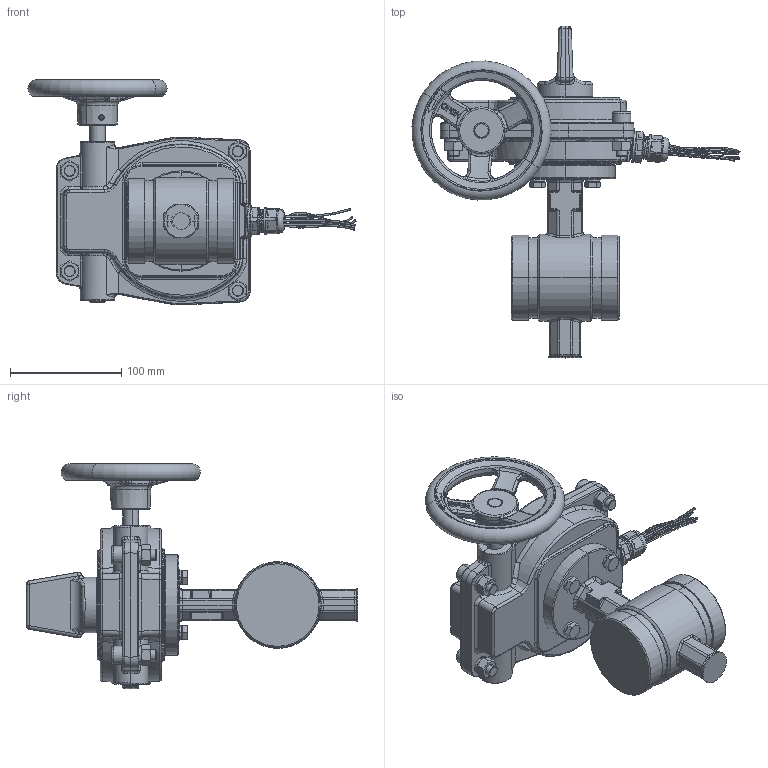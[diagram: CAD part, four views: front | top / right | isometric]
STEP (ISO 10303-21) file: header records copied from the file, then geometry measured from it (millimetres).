
FILE_DESCRIPTION (( 'STEP AP214' ), '1' );
FILE_NAME ('933XD381XD76.STEP', '2024-04-16T03:03:43', ( '' ), ( '' ), 'SwSTEP 2.0', 'SolidWorks 2018', '' );
FILE_SCHEMA (( 'AUTOMOTIVE_DESIGN' ));
Length unit declared in the file: millimetre
Products named in the file (19): 922WWG40X14.STEP; hex head bolts-full thread grade c gb_GB_FASTENER_BOLT_HHBFTC M8X25-N.STEP; hexagon socket head cap screws gb_GB_FASTENER_SCREWS_HSHCS M10X30-N.STEP; 922WGZ14X190-01-0-T.STEP; 陓瘍盄123; hex nuts, style 1-grades ab gb_GB_FASTENER_NUT_SNAB1 M10-N.STEP; 91WXD381XD76.STEP; 901WGD100-01-1-T.STEP; 922DT30X1.5.STEP; 922D14-6B76-01-0-T.STEP; 922SL125-01-0-T.STEP; MFD21D8X2.STEP; spring lock washers--normal type gb_GB_FASTENER_WASHER_SW 10.STEP; 901wzspd100-01-2-t.STEP; spring lock washers--normal type gb_GB_FASTENER_WASHER_SW 8.STEP; 901-WXL-RD-D100.STEP; 933XD381XD76; 280S15.STEP; 901WXTD100-01-1-T.STEP
Assembly tree (33 placements, depth 4):
  933XD381XD76
    91WXD381XD76.STEP
      901-WXL-RD-D100.STEP
        901WXTD100-01-1-T.STEP
        901WGD100-01-1-T.STEP
        922WWG40X14.STEP
        922SL125-01-0-T.STEP
        922WGZ14X190-01-0-T.STEP
        901wzspd100-01-2-t.STEP
        hexagon socket head cap screws gb_GB_FASTENER_SCREWS_HSHCS M10X30-N.STEP  x4
        spring lock washers--normal type gb_GB_FASTENER_WASHER_SW 10.STEP  x4
        hex nuts, style 1-grades ab gb_GB_FASTENER_NUT_SNAB1 M10-N.STEP  x4
        MFD21D8X2.STEP
        280S15.STEP
      922D14-6B76-01-0-T.STEP
      922DT30X1.5.STEP
      spring lock washers--normal type gb_GB_FASTENER_WASHER_SW 8.STEP  x4
      hex head bolts-full thread grade c gb_GB_FASTENER_BOLT_HHBFTC M8X25-N.STEP  x4
    陓瘍盄123
Bounding box: 294.49 x 298 x 202.56 mm (x, y, z)
Volume: 1072657.3 mm3; surface area: 322887.8 mm2
Topology: 37 solids, 47 shells, 3122 faces, 7416 edges, 4387 vertices
Faces by surface type: bspline 1035, cylinder 634, plane 615, torus 303, cone 299, sphere 236
Entity records: 163289 total; most frequent: CARTESIAN_POINT 106667, ORIENTED_EDGE 13552, DIRECTION 8335, EDGE_CURVE 6790, VERTEX_POINT 4024, B_SPLINE_CURVE_WITH_KNOTS 3679, AXIS2_PLACEMENT_3D 3533, EDGE_LOOP 2982
